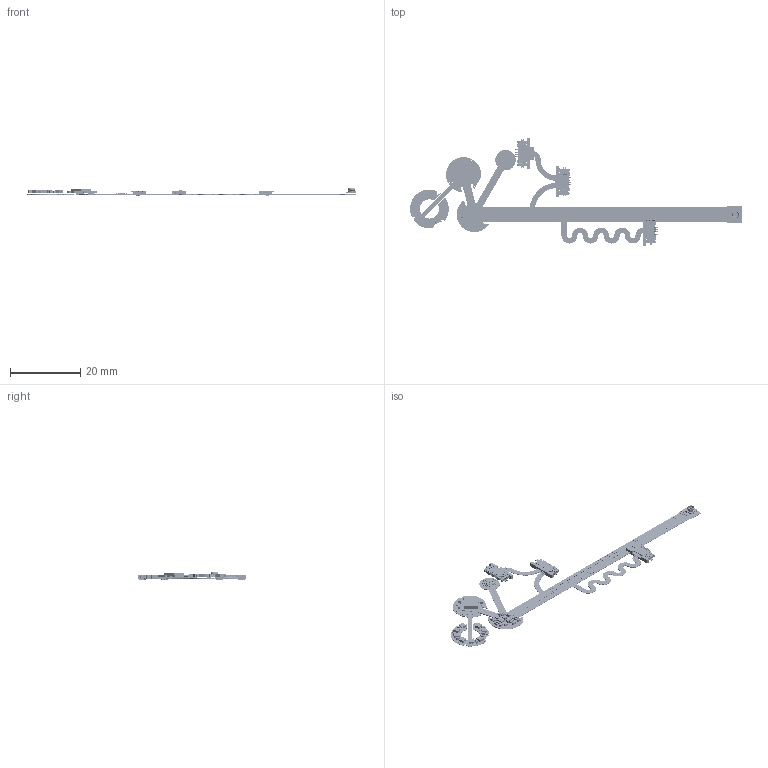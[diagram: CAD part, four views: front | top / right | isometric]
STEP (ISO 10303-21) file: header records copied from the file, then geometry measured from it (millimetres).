
FILE_DESCRIPTION(('STEP AP214'),'1');
FILE_NAME('SLIMflex_planar.stp','2022-11-29T07:11:17',(' '),(' '),'Spatial InterOp 3D',' ',' ');
FILE_SCHEMA(('AUTOMOTIVE_DESIGN { 1 0 10303 214 1 1 1 1 }'));
Length unit declared in the file: millimetre
Products named in the file (294): Pins; 1; 2; 3; 4; 5; 6; A0; A1; A2; A3; A4; A5; A6; ALERT; AREF; AVCC; B1; B2; B3; B4; B5; B6; BUS; C1; C2; C3; C4; C5; C6; D1; D2; D3; D4; D5; D6; DIN; DOUT; E1; E2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
Assembly tree (293 placements, depth 3):
  SLIMflex_Outline41.brd
    Pins
      1
      1
      1
      1
      1
      1
      1
      1
      1
      1
      1
      1
      1
      1
      1
      1
      1
      1
      1
      1
      1
      1
      1
      1
      1
      1
      1
      1
      1
      1
      1
      1
      1
      1
      1
      1
      1
      1
      1
      1
      1
      1
      1
      1
      1
      1
      2
      2
      2
      2
      2
      2
      2
      2
      2
      2
      2
      2
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Bounding box: 94.26 x 30.52 x 2.07 mm (x, y, z)
Volume: 227.1 mm3; surface area: 12279.1 mm2
Topology: 6571 solids, 6571 shells, 49367 faces, 110179 edges, 77896 vertices
Faces by surface type: cylinder 27769, plane 21488, sphere 52, torus 33, bspline 14, cone 11
Entity records: 1480437 total; most frequent: DIRECTION 265022, CARTESIAN_POINT 235195, ORIENTED_EDGE 217358, EDGE_CURVE 108679, AXIS2_PLACEMENT_3D 105379, VERTEX_POINT 72360, EDGE_LOOP 61267, CIRCLE 55705
